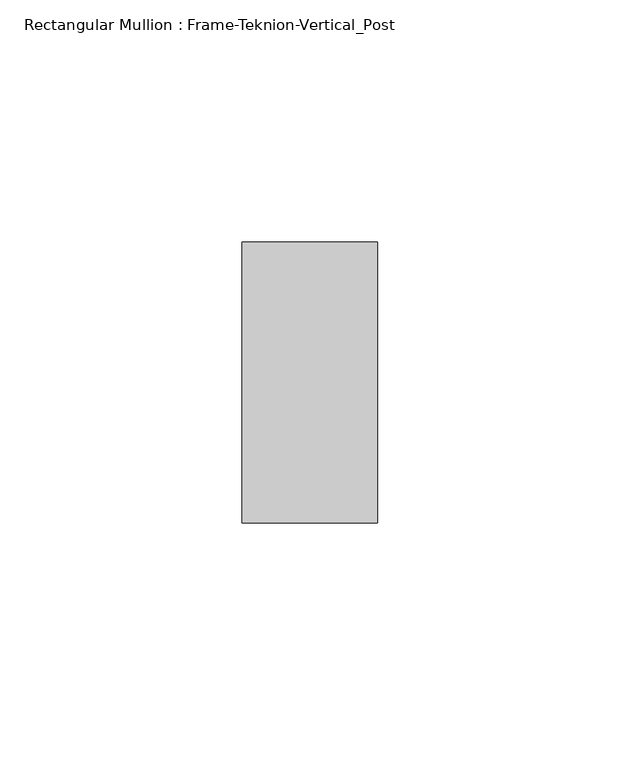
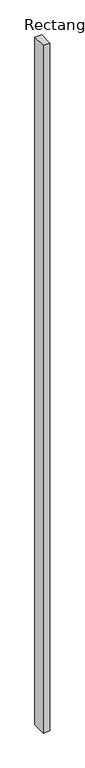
"""IFC4 building model written with IfcOpenShell, lengths in millimetres: member geometry, Rectangular Mullion : Frame-Teknion-Vertical_Post."""

from ifc_helpers import new_model, si_unit, frame, origin, place, context, project, spatial, polyline, outline, extrude, source, transform, mapped, element, save


def rectangular_mullion_frame_teknion_vertical_post_526a61ed(model_context):
    return source(origin(), model_context, "Body", "SweptSolid", [
        extrude(outline(polyline([(0.0, 28.971875), (0.0, -28.971875), (-27.9796875, -28.971875), (-27.9796875, 28.971875), (0.0, 28.971875)])), frame((0.0, 0.0, -2962.0754327), z_axis=(0.0, 0.0, 1.0), x_axis=(1.0, 0.0, 0.0)), (0.0, 0.0, 1.0), 2962.0754327),
    ])


if __name__ == "__main__":
    model = new_model("IFC4")
    model_context = context("Model", 3, world=origin())
    ifc_project = project(units=[si_unit("LENGTHUNIT", "METRE", prefix="MILLI")], contexts=[model_context])
    site = spatial("IfcSite", under=ifc_project)
    building = spatial("IfcBuilding", under=site)
    placement = place(None, origin())
    rectangular_mullion_frame_teknion_vertical_post_shape = rectangular_mullion_frame_teknion_vertical_post_526a61ed(model_context)
    element("IfcMember", 1, ObjectType="Rectangular Mullion : Frame-Teknion-Vertical_Post", at=placement, inside=building, context=model_context, shape_type="MappedRepresentation", body=[
        mapped(rectangular_mullion_frame_teknion_vertical_post_shape, transform((0.0, 0.0, 0.0), x_axis=(1.0, 0.0, 0.0), y_axis=(0.0, 1.0, 0.0), z_axis=(0.0, 0.0, 1.0))),
    ])
    save(model, "model.ifc")
